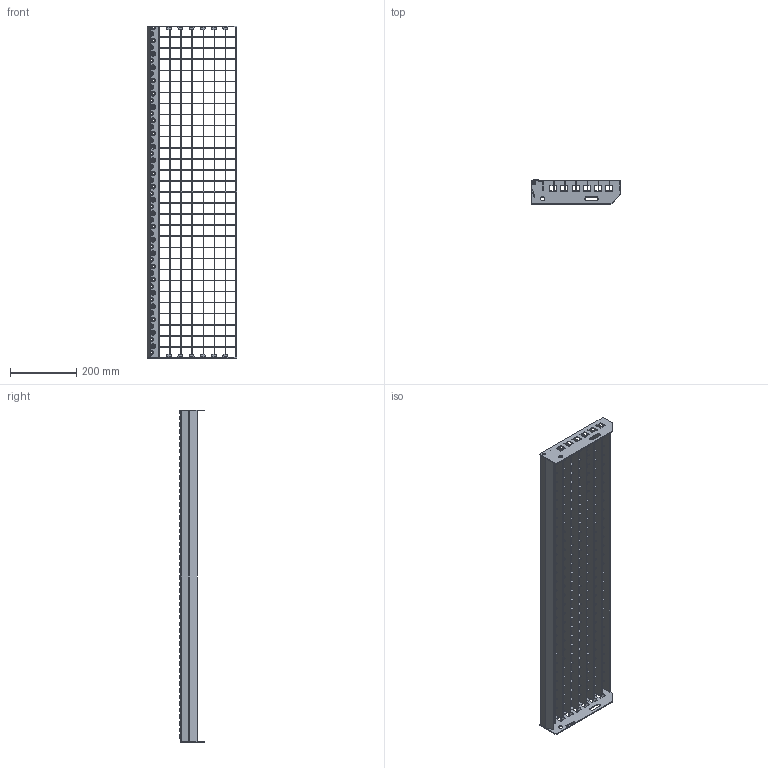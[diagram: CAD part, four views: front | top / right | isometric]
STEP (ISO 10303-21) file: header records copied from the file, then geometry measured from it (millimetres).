
FILE_DESCRIPTION(/* description */ ('','CAx-IF Rec.Pracs.---Representation and Presentation of Product Manufacturing Information (PMI)---3.8---2014-02-18'),/* implementation_level */ '2;1');
FILE_NAME(/* name */ 'C:\Users\phaverkotte\Desktop\Lager STEP\P-Stufen\P 230-33-2\P 230-33-2 1000mm x 270mm.stp',/* time_stamp */ '2018-03-24T09:47:37+01:00',/* author */ ('phaverkotte'),/* organization */ (''),/* preprocessor_version */ 'ST-DEVELOPER v16.13',/* originating_system */ 'Autodesk Inventor 2018',/* authorisation */ '');
FILE_SCHEMA (('AP242_MANAGED_MODEL_BASED_3D_ENGINEERING_MIM_LF { 1 0 10303 442 1 1 4 }'));
Length unit declared in the file: millimetre
Products named in the file (8): Schodišťový stupeň přím
ý lisovaný; Seitenplatte ausgeklinkt links; Seitenplatte 240 ausgeklinkt extern rechts; Schod nášlap; P Rošt schodu; Querstab; P Nosný pás; Hinteres Flach
Assembly tree (41 placements, depth 3):
  Schodišťový stupeň přím
ý lisovaný
    Seitenplatte ausgeklinkt links
    Seitenplatte 240 ausgeklinkt extern rechts
    Schod nášlap
    P Rošt schodu
      Querstab  x29
      P Nosný pás  x7
      Hinteres Flach
Bounding box: 270.31 x 72.75 x 1000 mm (x, y, z)
Volume: 880464.9 mm3; surface area: 902694.6 mm2
Topology: 40 solids, 40 shells, 1700 faces, 4689 edges, 3086 vertices
Faces by surface type: plane 1344, cone 150, cylinder 132, torus 50, bspline 24
Full cylindrical faces by diameter (mm): 8 x2, 13 x2
Entity records: 28345 total; most frequent: CARTESIAN_POINT 8310, DIRECTION 4006, ORIENTED_EDGE 3788, EDGE_CURVE 1894, AXIS2_PLACEMENT_3D 1341, LINE 1324, VECTOR 1324, VERTEX_POINT 1323
